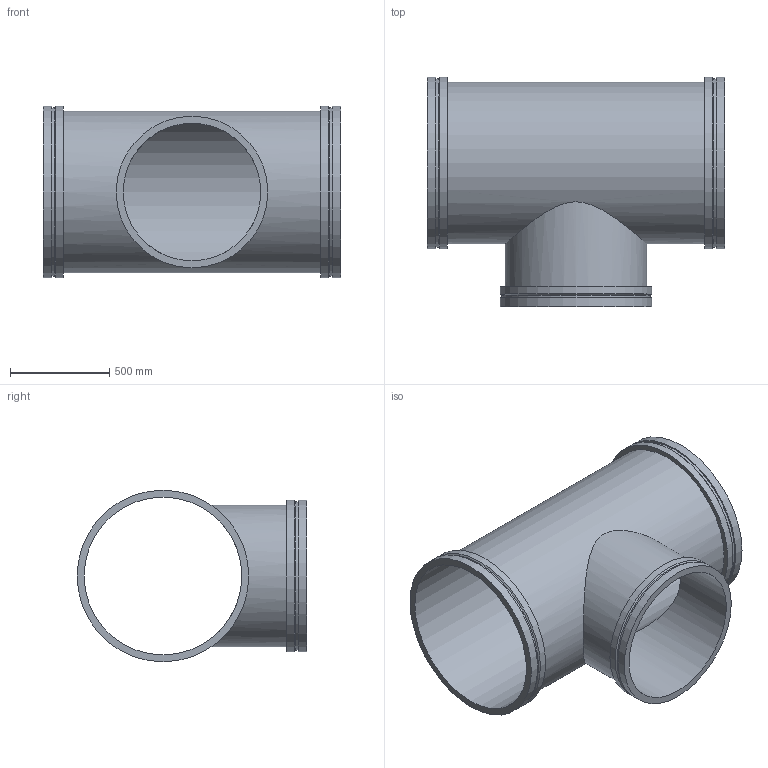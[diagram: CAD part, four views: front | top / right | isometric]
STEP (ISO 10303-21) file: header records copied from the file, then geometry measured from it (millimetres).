
FILE_DESCRIPTION(/* description */ ('VIC REDUCING TEE No W025 VR','CAx-IF Rec.Pracs.---Representation and Presentation of Product Manufacturing Information (PMI)---4.0---2014-10-13'),/* implementation_level */ '2;1');
FILE_NAME(/* name */ 'C:\Users\kkamble\AppData\Roaming\Autodesk\ApplicationPlugins\Back Up\Victaulic_Vic-Ring_Tee Reducing_No W25 VR (AGR)\Victaulic_Vic-Ring_Tee Reducing_No W25 VR (AGR)_32.0x28.0 (800x700).stp',/* time_stamp */ '2020-09-10T11:54:48+05:00',/* author */ ('mchristi'),/* organization */ ('Victaulic'),/* preprocessor_version */ 'ST-DEVELOPER v17.2',/* originating_system */ 'Autodesk Inventor 2019',/* authorisation */ '');
FILE_SCHEMA (('AP242_MANAGED_MODEL_BASED_3D_ENGINEERING_MIM_LF { 1 0 10303 442 1 1 4 }'));
Length unit declared in the file: inch
Products named in the file (1): W25 VR-32.0x28.0
Bounding box: 1498.6 x 1155.7 x 863.6 mm (x, y, z)
Volume: 59203590.7 mm3; surface area: 9096663.9 mm2
Topology: 1 solids, 1 shells, 25 faces, 68 edges, 52 vertices
Faces by surface type: cylinder 13, plane 9, cone 3
Full cylindrical faces by diameter (mm): 692.15 x1, 711.2 x1, 747.522 x1, 762 x2, 793.75 x1, 812.8 x1, 849.122 x2, 863.6 x4
Entity records: 1267 total; most frequent: CARTESIAN_POINT 423, DIRECTION 190, ORIENTED_EDGE 136, AXIS2_PLACEMENT_3D 87, EDGE_CURVE 68, VERTEX_POINT 52, CIRCLE 48, EDGE_LOOP 36
